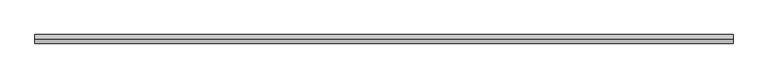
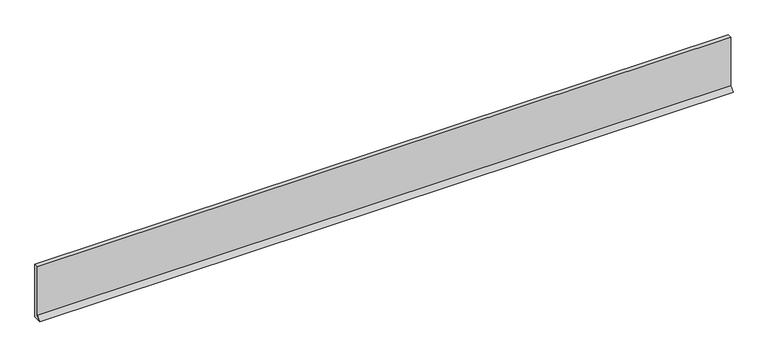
"""IFC4 building model written with IfcOpenShell, lengths in millimetres: plate geometry, ATELIERS 3S_EPURE CDB 400_HORIZONTAL : AZURO."""

from ifc_helpers import new_model, si_unit, frame, origin, place, context, project, spatial, polyline, outline, extrude, source, transform, mapped, element, save


def plate_c27208d2(model_context):
    return source(origin(), model_context, "Body", "SweptSolid", [
        extrude(outline(polyline([(-30.0201339, 31.7071152), (-30.0201339, 400.0), (0.0, 400.0), (0.0, 0.0), (-61.727249, 0.0), (-30.0201339, 31.7071152)])), frame((-2500.0, 0.0, 0.0), z_axis=(1.0, 0.0, 0.0), x_axis=(0.0, 1.0, 0.0)), (0.0, 0.0, 1.0), 5000.0),
    ])


if __name__ == "__main__":
    model = new_model("IFC4")
    model_context = context("Model", 3, world=origin())
    ifc_project = project(units=[si_unit("LENGTHUNIT", "METRE", prefix="MILLI")], contexts=[model_context])
    site = spatial("IfcSite", under=ifc_project)
    building = spatial("IfcBuilding", under=site)
    placement = place(None, origin())
    plate_shape = plate_c27208d2(model_context)
    element("IfcPlate", 1, ObjectType="ATELIERS 3S_EPURE CDB 400_HORIZONTAL : AZURO", at=placement, inside=building, context=model_context, shape_type="MappedRepresentation", body=[
        mapped(plate_shape, transform((0.0, 0.0, 0.0), x_axis=(1.0, 0.0, 0.0), y_axis=(0.0, 1.0, 0.0), z_axis=(0.0, 0.0, 1.0))),
    ])
    save(model, "model.ifc")
